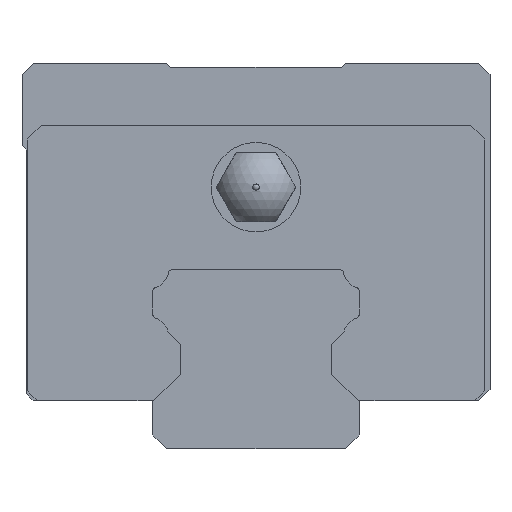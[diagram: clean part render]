
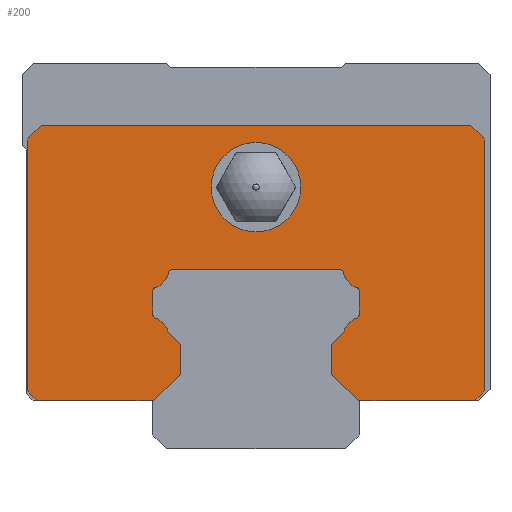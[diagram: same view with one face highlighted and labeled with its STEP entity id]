
A CAD part, front view. The second image highlights one B-rep face of the part: STEP entity #200.
In plain terms, the highlighted planar face has unit normal (0, -1, 0).
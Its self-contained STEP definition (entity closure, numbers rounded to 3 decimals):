
#200=ADVANCED_FACE('',(#382,#383),#384,.T.);
#382=FACE_OUTER_BOUND('',#701,.T.);
#383=FACE_BOUND('',#702,.T.);
#384=PLANE('',#703);
#701=EDGE_LOOP('',(#1180,#1181,#1182,#1183,#1184,#1185,#1186,#1187,#1188,#1189,#1190,#1191,#1192,#1193,#1194,#1195,#1196,#1197,#1198,#1199,#1200,#1201,#1202,#1203,#1204,#1205,#1206,#1207));
#702=EDGE_LOOP('',(#1208,#1209,#1210));
#703=AXIS2_PLACEMENT_3D('',#1211,#1212,#1213);
#1180=ORIENTED_EDGE('',*,*,#2284,.F.);
#1181=ORIENTED_EDGE('',*,*,#2285,.F.);
#1182=ORIENTED_EDGE('',*,*,#2286,.F.);
#1183=ORIENTED_EDGE('',*,*,#2287,.F.);
#1184=ORIENTED_EDGE('',*,*,#2288,.F.);
#1185=ORIENTED_EDGE('',*,*,#2236,.F.);
#1186=ORIENTED_EDGE('',*,*,#2289,.F.);
#1187=ORIENTED_EDGE('',*,*,#2258,.F.);
#1188=ORIENTED_EDGE('',*,*,#2290,.F.);
#1189=ORIENTED_EDGE('',*,*,#2291,.F.);
#1190=ORIENTED_EDGE('',*,*,#2292,.F.);
#1191=ORIENTED_EDGE('',*,*,#2293,.F.);
#1192=ORIENTED_EDGE('',*,*,#2294,.F.);
#1193=ORIENTED_EDGE('',*,*,#2295,.F.);
#1194=ORIENTED_EDGE('',*,*,#2296,.F.);
#1195=ORIENTED_EDGE('',*,*,#2297,.F.);
#1196=ORIENTED_EDGE('',*,*,#2298,.F.);
#1197=ORIENTED_EDGE('',*,*,#2299,.F.);
#1198=ORIENTED_EDGE('',*,*,#2300,.F.);
#1199=ORIENTED_EDGE('',*,*,#2301,.T.);
#1200=ORIENTED_EDGE('',*,*,#2302,.T.);
#1201=ORIENTED_EDGE('',*,*,#2303,.T.);
#1202=ORIENTED_EDGE('',*,*,#2304,.T.);
#1203=ORIENTED_EDGE('',*,*,#2305,.T.);
#1204=ORIENTED_EDGE('',*,*,#2306,.T.);
#1205=ORIENTED_EDGE('',*,*,#2307,.T.);
#1206=ORIENTED_EDGE('',*,*,#2308,.T.);
#1207=ORIENTED_EDGE('',*,*,#2309,.T.);
#1208=ORIENTED_EDGE('',*,*,#2310,.F.);
#1209=ORIENTED_EDGE('',*,*,#2311,.F.);
#1210=ORIENTED_EDGE('',*,*,#2203,.F.);
#1211=CARTESIAN_POINT('',(0.0,0.0,19.));
#1212=DIRECTION('',(0.0,-1.0,0.0));
#1213=DIRECTION('',(0.0,0.0,-1.0));
#2203=EDGE_CURVE('',#2612,#2615,#2616,.T.);
#2236=EDGE_CURVE('',#2671,#2673,#2674,.T.);
#2258=EDGE_CURVE('',#2711,#2713,#2714,.T.);
#2284=EDGE_CURVE('',#2758,#2759,#2760,.T.);
#2285=EDGE_CURVE('',#2761,#2758,#2762,.T.);
#2286=EDGE_CURVE('',#2763,#2761,#2764,.T.);
#2287=EDGE_CURVE('',#2765,#2763,#2766,.T.);
#2288=EDGE_CURVE('',#2673,#2765,#2767,.T.);
#2289=EDGE_CURVE('',#2713,#2671,#2768,.T.);
#2290=EDGE_CURVE('',#2769,#2711,#2770,.T.);
#2291=EDGE_CURVE('',#2771,#2769,#2772,.T.);
#2292=EDGE_CURVE('',#2773,#2771,#2774,.T.);
#2293=EDGE_CURVE('',#2775,#2773,#2776,.T.);
#2294=EDGE_CURVE('',#2777,#2775,#2778,.T.);
#2295=EDGE_CURVE('',#2779,#2777,#2780,.T.);
#2296=EDGE_CURVE('',#2781,#2779,#2782,.T.);
#2297=EDGE_CURVE('',#2783,#2781,#2784,.T.);
#2298=EDGE_CURVE('',#2785,#2783,#2786,.T.);
#2299=EDGE_CURVE('',#2787,#2785,#2788,.T.);
#2300=EDGE_CURVE('',#2789,#2787,#2790,.T.);
#2301=EDGE_CURVE('',#2789,#2791,#2792,.T.);
#2302=EDGE_CURVE('',#2791,#2793,#2794,.T.);
#2303=EDGE_CURVE('',#2793,#2795,#2796,.T.);
#2304=EDGE_CURVE('',#2795,#2797,#2798,.T.);
#2305=EDGE_CURVE('',#2797,#2799,#2800,.T.);
#2306=EDGE_CURVE('',#2799,#2801,#2802,.T.);
#2307=EDGE_CURVE('',#2801,#2803,#2804,.T.);
#2308=EDGE_CURVE('',#2803,#2805,#2806,.T.);
#2309=EDGE_CURVE('',#2805,#2759,#2807,.T.);
#2310=EDGE_CURVE('',#2808,#2612,#2809,.T.);
#2311=EDGE_CURVE('',#2615,#2808,#2810,.T.);
#2612=VERTEX_POINT('',#3266);
#2615=VERTEX_POINT('',#3270);
#2616=CIRCLE('',#3271,3.25);
#2671=VERTEX_POINT('',#3343);
#2673=VERTEX_POINT('',#3346);
#2674=LINE('',#3347,#3348);
#2711=VERTEX_POINT('',#3402);
#2713=VERTEX_POINT('',#3405);
#2714=CIRCLE('',#3406,1.4);
#2758=VERTEX_POINT('',#3472);
#2759=VERTEX_POINT('',#3473);
#2760=LINE('',#3474,#3475);
#2761=VERTEX_POINT('',#3476);
#2762=LINE('',#3477,#3478);
#2763=VERTEX_POINT('',#3479);
#2764=LINE('',#3480,#3481);
#2765=VERTEX_POINT('',#3482);
#2766=CIRCLE('',#3483,1.4);
#2767=CIRCLE('',#3484,0.3);
#2768=CIRCLE('',#3485,0.3);
#2769=VERTEX_POINT('',#3486);
#2770=CIRCLE('',#3487,0.3);
#2771=VERTEX_POINT('',#3488);
#2772=LINE('',#3489,#3490);
#2773=VERTEX_POINT('',#3491);
#2774=CIRCLE('',#3492,0.3);
#2775=VERTEX_POINT('',#3493);
#2776=CIRCLE('',#3494,1.4);
#2777=VERTEX_POINT('',#3495);
#2778=CIRCLE('',#3496,0.3);
#2779=VERTEX_POINT('',#3497);
#2780=LINE('',#3498,#3499);
#2781=VERTEX_POINT('',#3500);
#2782=CIRCLE('',#3501,0.3);
#2783=VERTEX_POINT('',#3502);
#2784=CIRCLE('',#3503,1.4);
#2785=VERTEX_POINT('',#3504);
#2786=LINE('',#3505,#3506);
#2787=VERTEX_POINT('',#3507);
#2788=LINE('',#3508,#3509);
#2789=VERTEX_POINT('',#3510);
#2790=LINE('',#3511,#3512);
#2791=VERTEX_POINT('',#3513);
#2792=LINE('',#3514,#3515);
#2793=VERTEX_POINT('',#3516);
#2794=LINE('',#3517,#3518);
#2795=VERTEX_POINT('',#3519);
#2796=LINE('',#3520,#3521);
#2797=VERTEX_POINT('',#3522);
#2798=LINE('',#3523,#3524);
#2799=VERTEX_POINT('',#3525);
#2800=LINE('',#3526,#3527);
#2801=VERTEX_POINT('',#3528);
#2802=LINE('',#3529,#3530);
#2803=VERTEX_POINT('',#3531);
#2804=LINE('',#3532,#3533);
#2805=VERTEX_POINT('',#3534);
#2806=LINE('',#3535,#3536);
#2807=LINE('',#3537,#3538);
#2808=VERTEX_POINT('',#3539);
#2809=CIRCLE('',#3540,3.25);
#2810=CIRCLE('',#3541,3.25);
#3266=CARTESIAN_POINT('',(0.,0.0,22.25));
#3270=CARTESIAN_POINT('',(0.,0.0,15.75));
#3271=AXIS2_PLACEMENT_3D('',#4131,#4132,#4133);
#3343=CARTESIAN_POINT('',(-7.5,0.0,11.428));
#3346=CARTESIAN_POINT('',(-7.5,0.0,9.772));
#3347=CARTESIAN_POINT('',(-7.5,0.0,19.));
#3348=VECTOR('',#4194,1000.0);
#3402=CARTESIAN_POINT('',(-6.368,0.0,12.76));
#3405=CARTESIAN_POINT('',(-7.295,0.0,11.712));
#3406=AXIS2_PLACEMENT_3D('',#4222,#4223,#4224);
#3472=CARTESIAN_POINT('',(-5.5,0.0,5.4));
#3473=CARTESIAN_POINT('',(-7.4,0.0,3.5));
#3474=CARTESIAN_POINT('',(4.05,0.0,14.95));
#3475=VECTOR('',#4256,1000.0);
#3476=CARTESIAN_POINT('',(-5.5,0.0,7.6));
#3477=CARTESIAN_POINT('',(-5.5,0.0,19.));
#3478=VECTOR('',#4257,1000.0);
#3479=CARTESIAN_POINT('',(-6.376,0.0,8.476));
#3480=CARTESIAN_POINT('',(-8.45,0.0,10.55));
#3481=VECTOR('',#4258,1000.0);
#3482=CARTESIAN_POINT('',(-7.295,0.0,9.488));
#3483=AXIS2_PLACEMENT_3D('',#4259,#4260,#4261);
#3484=AXIS2_PLACEMENT_3D('',#4262,#4263,#4264);
#3485=AXIS2_PLACEMENT_3D('',#4265,#4266,#4267);
#3486=CARTESIAN_POINT('',(-6.074,0.0,13.0));
#3487=AXIS2_PLACEMENT_3D('',#4268,#4269,#4270);
#3488=CARTESIAN_POINT('',(6.074,0.0,13.));
#3489=CARTESIAN_POINT('',(0.0,0.0,13.0));
#3490=VECTOR('',#4271,1000.0);
#3491=CARTESIAN_POINT('',(6.368,0.0,12.76));
#3492=AXIS2_PLACEMENT_3D('',#4272,#4273,#4274);
#3493=CARTESIAN_POINT('',(7.295,0.0,11.712));
#3494=AXIS2_PLACEMENT_3D('',#4275,#4276,#4277);
#3495=CARTESIAN_POINT('',(7.5,0.0,11.428));
#3496=AXIS2_PLACEMENT_3D('',#4278,#4279,#4280);
#3497=CARTESIAN_POINT('',(7.5,0.0,9.772));
#3498=CARTESIAN_POINT('',(7.5,0.0,19.));
#3499=VECTOR('',#4281,1000.0);
#3500=CARTESIAN_POINT('',(7.295,0.0,9.488));
#3501=AXIS2_PLACEMENT_3D('',#4282,#4283,#4284);
#3502=CARTESIAN_POINT('',(6.376,0.0,8.476));
#3503=AXIS2_PLACEMENT_3D('',#4285,#4286,#4287);
#3504=CARTESIAN_POINT('',(5.5,0.0,7.6));
#3505=CARTESIAN_POINT('',(8.45,0.0,10.55));
#3506=VECTOR('',#4288,1000.0);
#3507=CARTESIAN_POINT('',(5.5,0.0,5.4));
#3508=CARTESIAN_POINT('',(5.5,0.0,19.));
#3509=VECTOR('',#4289,1000.0);
#3510=CARTESIAN_POINT('',(7.4,0.0,3.5));
#3511=CARTESIAN_POINT('',(-4.05,0.0,14.95));
#3512=VECTOR('',#4290,1000.0);
#3513=CARTESIAN_POINT('',(15.9,0.0,3.5));
#3514=CARTESIAN_POINT('',(-15.9,0.0,3.5));
#3515=VECTOR('',#4291,1000.0);
#3516=CARTESIAN_POINT('',(16.6,0.0,4.2));
#3517=CARTESIAN_POINT('',(15.9,0.0,3.5));
#3518=VECTOR('',#4292,1000.0);
#3519=CARTESIAN_POINT('',(16.6,0.0,22.5));
#3520=CARTESIAN_POINT('',(16.6,0.0,4.2));
#3521=VECTOR('',#4293,1000.0);
#3522=CARTESIAN_POINT('',(15.6,0.0,23.5));
#3523=CARTESIAN_POINT('',(16.6,0.0,22.5));
#3524=VECTOR('',#4294,1000.0);
#3525=CARTESIAN_POINT('',(-15.6,0.0,23.5));
#3526=CARTESIAN_POINT('',(15.6,0.0,23.5));
#3527=VECTOR('',#4295,1000.0);
#3528=CARTESIAN_POINT('',(-16.6,0.0,22.5));
#3529=CARTESIAN_POINT('',(-15.6,0.0,23.5));
#3530=VECTOR('',#4296,1000.0);
#3531=CARTESIAN_POINT('',(-16.6,0.0,4.2));
#3532=CARTESIAN_POINT('',(-16.6,0.0,22.5));
#3533=VECTOR('',#4297,1000.0);
#3534=CARTESIAN_POINT('',(-15.9,0.0,3.5));
#3535=CARTESIAN_POINT('',(-16.6,0.0,4.2));
#3536=VECTOR('',#4298,1000.0);
#3537=CARTESIAN_POINT('',(-15.9,0.0,3.5));
#3538=VECTOR('',#4299,1000.0);
#3539=CARTESIAN_POINT('',(3.25,0.0,19.));
#3540=AXIS2_PLACEMENT_3D('',#4300,#4301,#4302);
#3541=AXIS2_PLACEMENT_3D('',#4303,#4304,#4305);
#4131=CARTESIAN_POINT('',(0.0,0.0,19.));
#4132=DIRECTION('',(0.0,-1.0,0.0));
#4133=DIRECTION('',(1.0,0.0,0.0));
#4194=DIRECTION('',(0.0,0.0,-1.0));
#4222=CARTESIAN_POINT('',(-7.74,0.0,13.04));
#4223=DIRECTION('',(0.0,1.0,0.0));
#4224=DIRECTION('',(0.0,0.0,-1.0));
#4256=DIRECTION('',(-0.707,0.0,-0.707));
#4257=DIRECTION('',(0.0,0.0,-1.0));
#4258=DIRECTION('',(0.707,0.0,-0.707));
#4259=CARTESIAN_POINT('',(-7.74,0.0,8.16));
#4260=DIRECTION('',(0.0,1.0,0.0));
#4261=DIRECTION('',(0.0,0.0,-1.0));
#4262=CARTESIAN_POINT('',(-7.2,0.0,9.772));
#4263=DIRECTION('',(0.0,-1.0,0.0));
#4264=DIRECTION('',(0.0,0.0,-1.0));
#4265=CARTESIAN_POINT('',(-7.2,0.0,11.428));
#4266=DIRECTION('',(0.0,-1.0,0.0));
#4267=DIRECTION('',(0.0,0.0,-1.0));
#4268=CARTESIAN_POINT('',(-6.074,0.0,12.7));
#4269=DIRECTION('',(0.0,-1.0,0.0));
#4270=DIRECTION('',(0.0,0.0,-1.0));
#4271=DIRECTION('',(-1.0,0.0,0.0));
#4272=CARTESIAN_POINT('',(6.074,0.0,12.7));
#4273=DIRECTION('',(0.0,-1.0,0.0));
#4274=DIRECTION('',(0.0,0.0,-1.0));
#4275=CARTESIAN_POINT('',(7.74,0.0,13.04));
#4276=DIRECTION('',(0.0,1.0,0.0));
#4277=DIRECTION('',(0.0,0.0,-1.0));
#4278=CARTESIAN_POINT('',(7.2,0.0,11.428));
#4279=DIRECTION('',(0.0,-1.0,0.0));
#4280=DIRECTION('',(0.0,0.0,-1.0));
#4281=DIRECTION('',(0.0,0.0,1.0));
#4282=CARTESIAN_POINT('',(7.2,0.0,9.772));
#4283=DIRECTION('',(0.0,-1.0,0.0));
#4284=DIRECTION('',(0.0,0.0,-1.0));
#4285=CARTESIAN_POINT('',(7.74,0.0,8.16));
#4286=DIRECTION('',(0.0,1.0,0.0));
#4287=DIRECTION('',(0.0,0.0,-1.0));
#4288=DIRECTION('',(0.707,0.0,0.707));
#4289=DIRECTION('',(0.0,0.0,1.0));
#4290=DIRECTION('',(-0.707,0.0,0.707));
#4291=DIRECTION('',(1.0,0.0,0.));
#4292=DIRECTION('',(0.707,0.0,0.707));
#4293=DIRECTION('',(0.0,0.0,1.0));
#4294=DIRECTION('',(-0.707,0.0,0.707));
#4295=DIRECTION('',(-1.0,0.0,0.0));
#4296=DIRECTION('',(-0.707,0.0,-0.707));
#4297=DIRECTION('',(0.0,0.0,-1.0));
#4298=DIRECTION('',(0.707,0.0,-0.707));
#4299=DIRECTION('',(1.0,0.0,0.));
#4300=CARTESIAN_POINT('',(0.0,0.0,19.));
#4301=DIRECTION('',(0.0,-1.0,0.0));
#4302=DIRECTION('',(1.0,0.0,0.0));
#4303=CARTESIAN_POINT('',(0.0,0.0,19.));
#4304=DIRECTION('',(0.0,-1.0,0.0));
#4305=DIRECTION('',(1.0,0.0,0.0));
